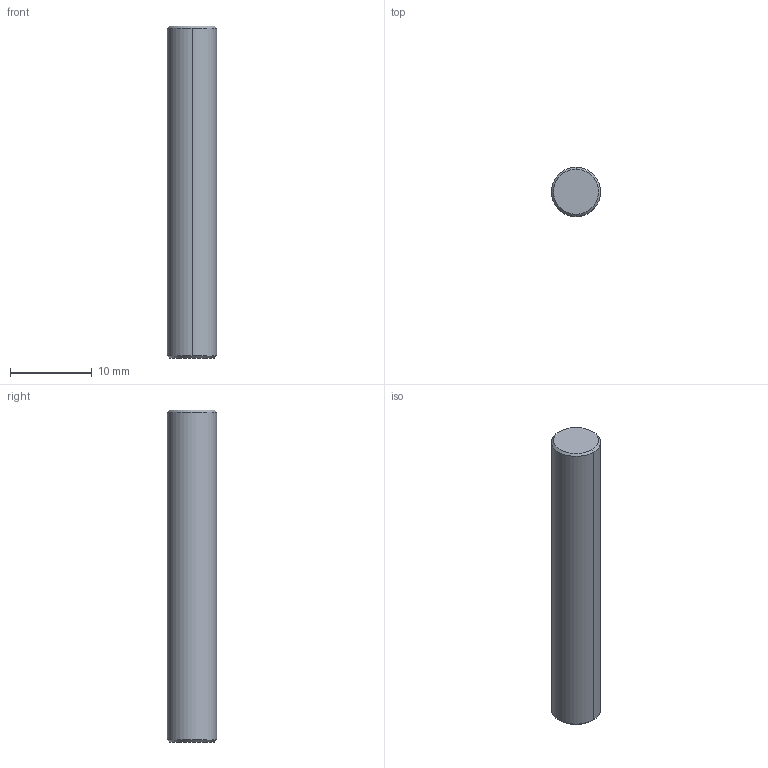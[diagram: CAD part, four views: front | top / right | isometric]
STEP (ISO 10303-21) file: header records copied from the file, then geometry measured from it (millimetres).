
FILE_DESCRIPTION(/* description */ ('VariCAD 2010-3.03 AP-214'),/* implementation_level */ '2;1');
FILE_NAME(/* name */ '0353-84-05',/* time_stamp */ '2011-06-29T15:57:18-06:00',/* author */ (''),/* organization */ (''),/* preprocessor_version */ 'ST-DEVELOPER v12',/* originating_system */ 'VariCAD 2010-3.03; kernel version (20100102)',/* authorisation */ '');
FILE_SCHEMA (('AUTOMOTIVE_DESIGN'));
Length unit declared in the file: millimetre
Products named in the file (1): Part
Bounding box: 6 x 6 x 40.5 mm (x, y, z)
Volume: 1144 mm3; surface area: 814.3 mm2
Topology: 1 solids, 1 shells, 8 faces, 14 edges, 8 vertices
Faces by surface type: cone 4, cylinder 2, plane 2
Entity records: 221 total; most frequent: DIRECTION 42, CARTESIAN_POINT 32, ORIENTED_EDGE 28, AXIS2_PLACEMENT_3D 18, EDGE_CURVE 14, ADVANCED_FACE 8, FACE_OUTER_BOUND 8, EDGE_LOOP 8
